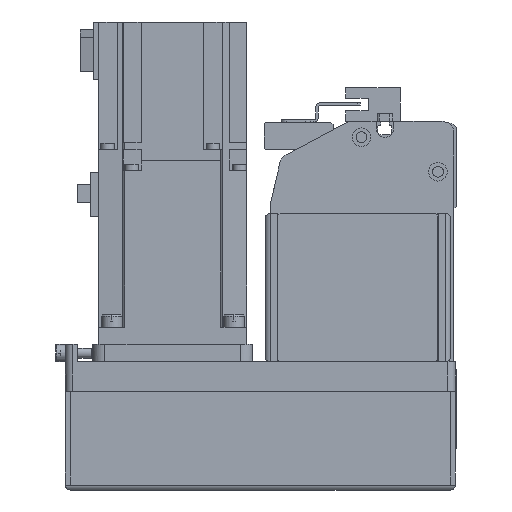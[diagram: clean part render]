
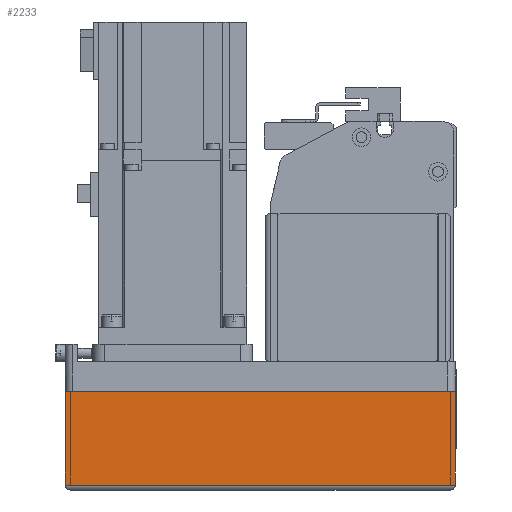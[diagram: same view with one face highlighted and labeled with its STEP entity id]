
A CAD part, left-side view. The second image highlights one B-rep face of the part: STEP entity #2233.
In plain terms, the highlighted planar face has unit normal (-1, 0, 0) as drawn and (0, -1, 0) by its records, which use the part's own axes.
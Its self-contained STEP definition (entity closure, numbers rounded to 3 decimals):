
#2233 = ADVANCED_FACE( '', ( #4895 ), #4896, .T. );
#4895 = FACE_OUTER_BOUND( '', #7954, .T. );
#4896 = PLANE( '', #7955 );
#7954 = EDGE_LOOP( '', ( #14227, #14228, #14229, #14230 ) );
#7955 = AXIS2_PLACEMENT_3D( '', #14231, #14232, #14233 );
#14227 = ORIENTED_EDGE( '', *, *, #20021, .F. );
#14228 = ORIENTED_EDGE( '', *, *, #18333, .F. );
#14229 = ORIENTED_EDGE( '', *, *, #20022, .T. );
#14230 = ORIENTED_EDGE( '', *, *, #18634, .T. );
#14231 = CARTESIAN_POINT( '', ( -158., -39., -12.1 ) );
#14232 = DIRECTION( '', ( 0., -1., 0. ) );
#14233 = DIRECTION( '', ( 0., 0., -1. ) );
#18333 = EDGE_CURVE( '', #22219, #22220, #22221, .T. );
#18634 = EDGE_CURVE( '', #22723, #22727, #22729, .T. );
#20021 = EDGE_CURVE( '', #22220, #22727, #24748, .T. );
#20022 = EDGE_CURVE( '', #22219, #22723, #24749, .T. );
#22219 = VERTEX_POINT( '', #27805 );
#22220 = VERTEX_POINT( '', #27806 );
#22221 = LINE( '', #27807, #27808 );
#22723 = VERTEX_POINT( '', #28532 );
#22727 = VERTEX_POINT( '', #28537 );
#22729 = LINE( '', #28539, #28540 );
#24748 = LINE( '', #31422, #31423 );
#24749 = LINE( '', #31424, #31425 );
#27805 = CARTESIAN_POINT( '', ( -158., -39., -12.1 ) );
#27806 = CARTESIAN_POINT( '', ( 0., -39., -12.1 ) );
#27807 = CARTESIAN_POINT( '', ( -158., -39., -12.1 ) );
#27808 = VECTOR( '', #33567, 1000. );
#28532 = CARTESIAN_POINT( '', ( -158., -39., -50. ) );
#28537 = CARTESIAN_POINT( '', ( 0., -39., -50. ) );
#28539 = CARTESIAN_POINT( '', ( -158., -39., -50. ) );
#28540 = VECTOR( '', #33964, 1000. );
#31422 = CARTESIAN_POINT( '', ( 0., -39., -12.1 ) );
#31423 = VECTOR( '', #35608, 1000. );
#31424 = CARTESIAN_POINT( '', ( -158., -39., -12.1 ) );
#31425 = VECTOR( '', #35609, 1000. );
#33567 = DIRECTION( '', ( 1., 0., 0. ) );
#33964 = DIRECTION( '', ( 1., 0., 0. ) );
#35608 = DIRECTION( '', ( 0., 0., -1. ) );
#35609 = DIRECTION( '', ( 0., 0., -1. ) );
